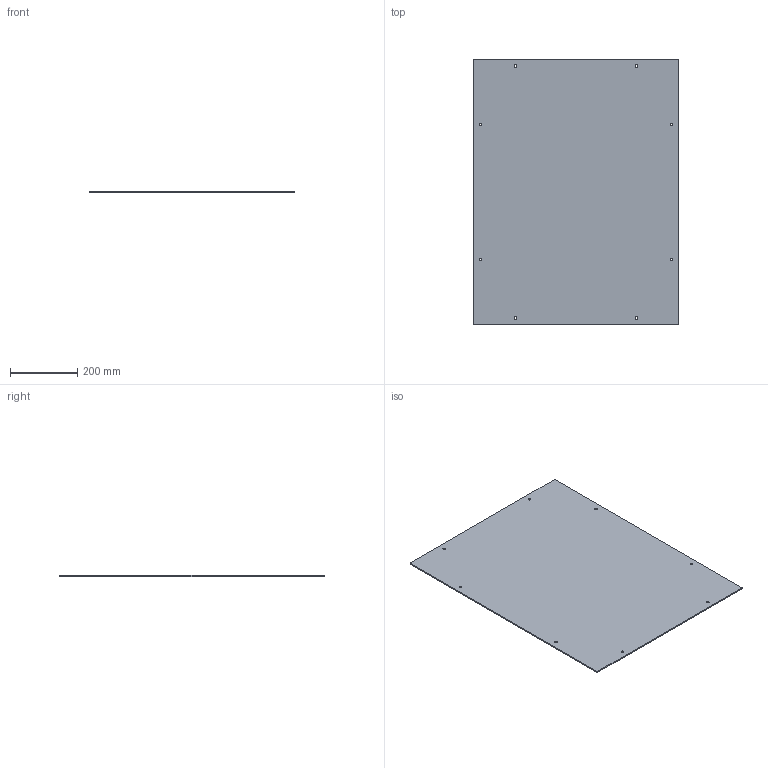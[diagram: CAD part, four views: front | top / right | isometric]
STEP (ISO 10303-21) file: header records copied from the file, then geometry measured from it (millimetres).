
FILE_DESCRIPTION(/* description */ (''),/* implementation_level */ '2;1');
FILE_NAME(/* name */ 'Side Module Side Panel.step',/* time_stamp */ '2026-05-13T17:00:40-07:00',/* author */ (''),/* organization */ (''),/* preprocessor_version */ 'ST-DEVELOPER v20.1',/* originating_system */ 'Autodesk Translation Framework v15.8.0.0',/* authorisation */ '');
FILE_SCHEMA (('AUTOMOTIVE_DESIGN { 1 0 10303 214 3 1 1 }'));
Length unit declared in the file: millimetre
Products named in the file (1): Side Module Side Panel
Bounding box: 609.6 x 790 x 3.67 mm (x, y, z)
Volume: 1766270.8 mm3; surface area: 973451.5 mm2
Topology: 1 solids, 1 shells, 18 faces, 48 edges, 32 vertices
Faces by surface type: cylinder 12, plane 6
Full cylindrical faces by diameter (mm): 7 x8
Entity records: 641 total; most frequent: DIRECTION 110, CARTESIAN_POINT 99, ORIENTED_EDGE 96, EDGE_CURVE 48, AXIS2_PLACEMENT_3D 43, EDGE_LOOP 34, VERTEX_POINT 32, LINE 24
